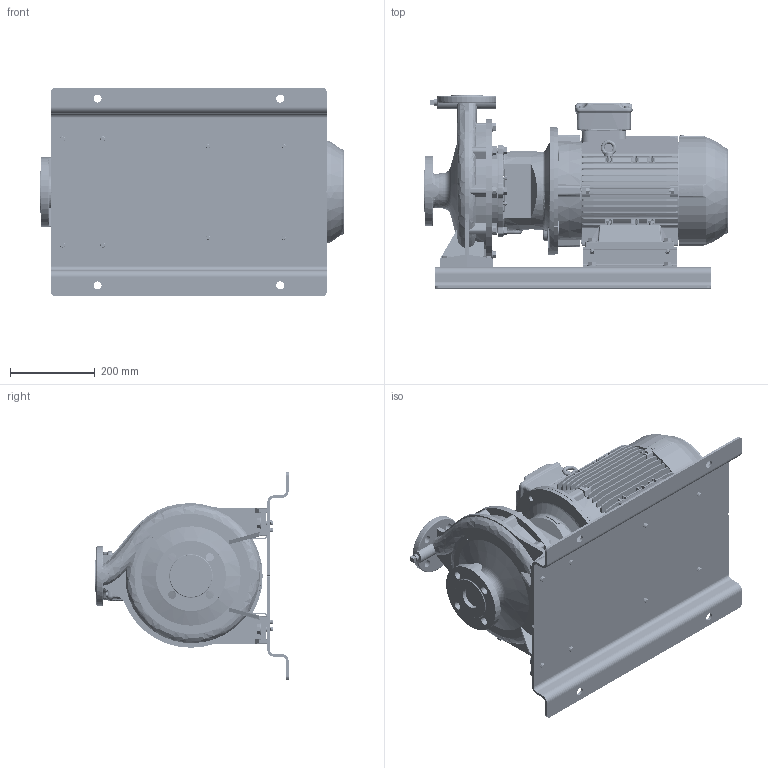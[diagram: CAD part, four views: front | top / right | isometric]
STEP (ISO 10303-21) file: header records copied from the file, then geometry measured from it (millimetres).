
FILE_DESCRIPTION (( 'STEP AP214' ), '1' );
FILE_NAME ('GSD2 32-250_9.2_(132M)_W21_BP.STEP', '2024-07-29T04:29:01', ( '' ), ( '' ), 'SwSTEP 2.0', 'SolidWorks 2019', '' );
FILE_SCHEMA (( 'AUTOMOTIVE_DESIGN' ));
Length unit declared in the file: millimetre
Products named in the file (10): N5S5 GSDA-559M F1-1832985M-00; GSD2  32-250_9.2_(132M)_W21_BP; 32-250-132M; Parametric Flat Washer_M12; Parametric bolt_SFT-A253B; Parametric bolt_SFT-A299B; Parametric Flat Washer_M10; 132M ALIE3_W21T_B35; 178 x 48 - CGSDA-5242; Parametric bolt_SFT-A249B
Assembly tree (29 placements, depth 2):
  GSD2  32-250_9.2_(132M)_W21_BP
    32-250-132M
    N5S5 GSDA-559M F1-1832985M-00
    178 x 48 - CGSDA-5242  x2
    Parametric bolt_SFT-A299B  x4
    Parametric bolt_SFT-A253B  x4
    Parametric bolt_SFT-A249B  x4
    Parametric Flat Washer_M10  x8
    Parametric Flat Washer_M12  x4
    132M ALIE3_W21T_B35
Bounding box: 714.8 x 455 x 490 mm (x, y, z)
Volume: 31968812.8 mm3; surface area: 2782300.9 mm2
Topology: 48 solids, 48 shells, 5407 faces, 14167 edges, 9199 vertices
Faces by surface type: plane 3068, cylinder 1393, torus 342, cone 289, bspline 283, sphere 32
Entity records: 232123 total; most frequent: CARTESIAN_POINT 61955, ORIENTED_EDGE 25644, DIRECTION 23053, EDGE_CURVE 12822, VERTEX_POINT 8343, LINE 8239, VECTOR 8239, AXIS2_PLACEMENT_3D 7407
